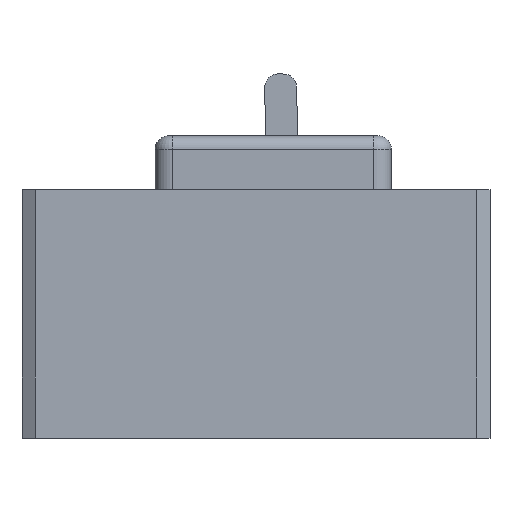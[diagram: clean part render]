
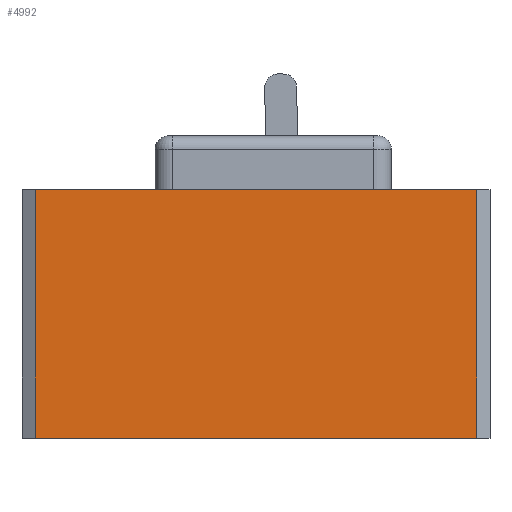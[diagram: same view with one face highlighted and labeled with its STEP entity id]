
A CAD part, left-side view. The second image highlights one B-rep face of the part: STEP entity #4992.
In plain terms, the highlighted planar face has unit normal (-1, 0, 0).
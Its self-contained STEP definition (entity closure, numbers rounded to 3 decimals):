
#105 = EDGE_CURVE ( 'NONE', #1038, #489, #4169, .T. ) ;
#132 = CARTESIAN_POINT ( 'NONE',  ( -56.115, -82.243, 92.7 ) ) ;
#457 = LINE ( 'NONE', #1272, #5256 ) ;
#469 = ORIENTED_EDGE ( 'NONE', *, *, #3254, .F. ) ;
#489 = VERTEX_POINT ( 'NONE', #5223 ) ;
#552 = AXIS2_PLACEMENT_3D ( 'NONE', #1968, #4785, #4804 ) ;
#569 = DIRECTION ( 'NONE',  ( 0., -1., 0. ) ) ;
#1020 = LINE ( 'NONE', #132, #1998 ) ;
#1038 = VERTEX_POINT ( 'NONE', #1664 ) ;
#1272 = CARTESIAN_POINT ( 'NONE',  ( -56.115, -82.243, 92.7 ) ) ;
#1646 = CARTESIAN_POINT ( 'NONE',  ( -56.115, 82.242, 92.7 ) ) ;
#1664 = CARTESIAN_POINT ( 'NONE',  ( -56.115, 82.242, 0. ) ) ;
#1778 = EDGE_LOOP ( 'NONE', ( #2747, #4083, #469, #2786 ) ) ;
#1804 = VERTEX_POINT ( 'NONE', #4666 ) ;
#1968 = CARTESIAN_POINT ( 'NONE',  ( -56.115, -82.243, 92.7 ) ) ;
#1998 = VECTOR ( 'NONE', #569, 1000. ) ;
#2160 = DIRECTION ( 'NONE',  ( 0., -1., 0. ) ) ;
#2380 = CARTESIAN_POINT ( 'NONE',  ( -56.115, -82.243, 92.7 ) ) ;
#2747 = ORIENTED_EDGE ( 'NONE', *, *, #105, .T. ) ;
#2786 = ORIENTED_EDGE ( 'NONE', *, *, #5121, .T. ) ;
#2802 = PLANE ( 'NONE',  #552 ) ;
#3005 = VECTOR ( 'NONE', #2160, 1000. ) ;
#3254 = EDGE_CURVE ( 'NONE', #1804, #3541, #1020, .T. ) ;
#3269 = DIRECTION ( 'NONE',  ( 0., 0., -1. ) ) ;
#3440 = CARTESIAN_POINT ( 'NONE',  ( -56.115, -82.243, 0. ) ) ;
#3541 = VERTEX_POINT ( 'NONE', #2380 ) ;
#3998 = VECTOR ( 'NONE', #3269, 1000. ) ;
#4083 = ORIENTED_EDGE ( 'NONE', *, *, #5160, .F. ) ;
#4136 = DIRECTION ( 'NONE',  ( 0., 0., -1. ) ) ;
#4169 = LINE ( 'NONE', #3440, #3005 ) ;
#4666 = CARTESIAN_POINT ( 'NONE',  ( -56.115, 82.242, 92.7 ) ) ;
#4785 = DIRECTION ( 'NONE',  ( 1., 0., 0. ) ) ;
#4804 = DIRECTION ( 'NONE',  ( 0., 1., 0. ) ) ;
#4881 = FACE_OUTER_BOUND ( 'NONE', #1778, .T. ) ;
#4992 = ADVANCED_FACE ( 'NONE', ( #4881 ), #2802, .F. ) ;
#5121 = EDGE_CURVE ( 'NONE', #1804, #1038, #5126, .T. ) ;
#5126 = LINE ( 'NONE', #1646, #3998 ) ;
#5160 = EDGE_CURVE ( 'NONE', #3541, #489, #457, .T. ) ;
#5223 = CARTESIAN_POINT ( 'NONE',  ( -56.115, -82.243, 0. ) ) ;
#5256 = VECTOR ( 'NONE', #4136, 1000. ) ;
